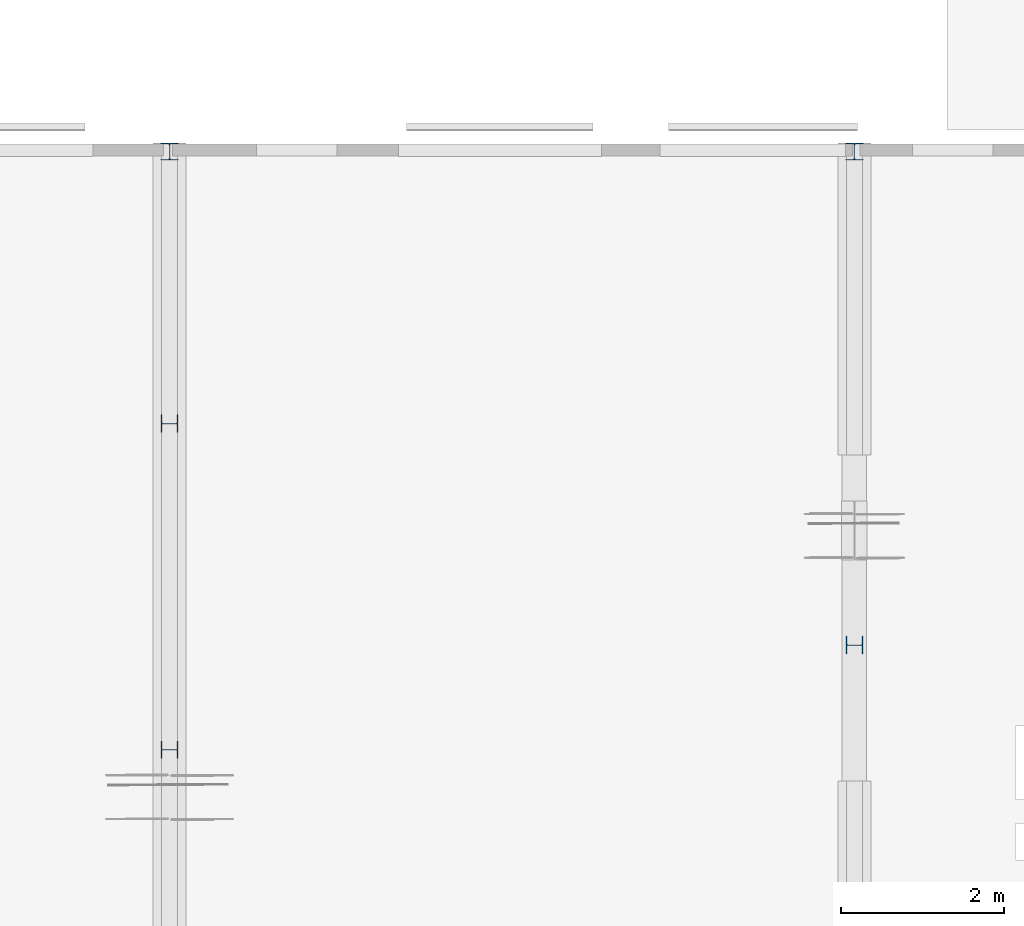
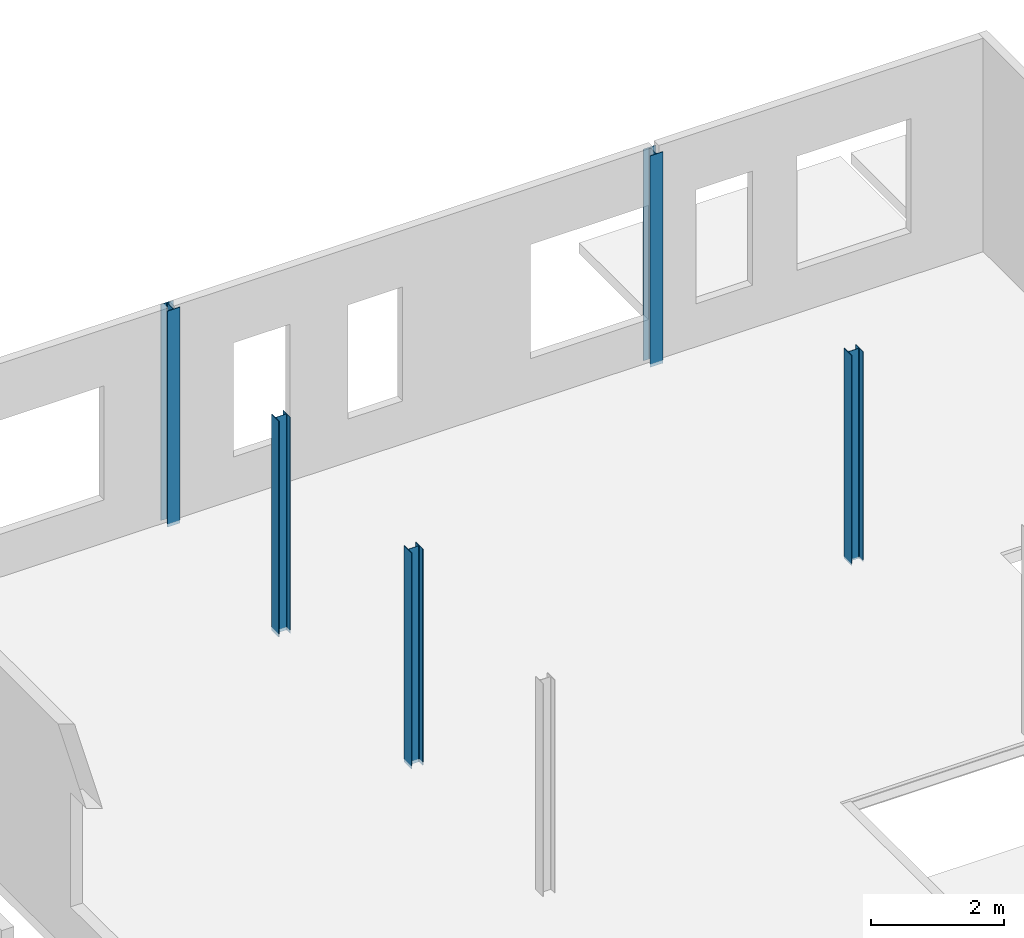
# One storey, part 3 of 16: 5 columns.
"""IFC2X3 building model written with IfcOpenShell, lengths in millimetres."""

from ifc_helpers import new_model, entity, si_unit, converted_unit, derived_unit, direction, frame, frame_2d, origin, place, context, subcontext, project, spatial, polyline, circle_curve, parameter, trimmed, segment, composite_curve, outline, extrude, source, transform, mapped, material, material_list, type_object, type_shapes, element, save


model = new_model("IFC2X3")

# Units and contexts
model_context = context("Model", 3, precision=0.01, world=origin(), true_north=direction((6.12303176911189e-17, 1.0)))
body_context = subcontext(model_context, "Body", "Model", "MODEL_VIEW")
ifc_project = project(units=[si_unit("LENGTHUNIT", "METRE", prefix="MILLI"), si_unit("AREAUNIT", "SQUARE_METRE"), si_unit("VOLUMEUNIT", "CUBIC_METRE"), converted_unit("PLANEANGLEUNIT", "DEGREE", entity("IfcRatioMeasure", 0.0174532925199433), si_unit("PLANEANGLEUNIT", "RADIAN"), dimensions=[0, 0, 0, 0, 0, 0, 0]), si_unit("MASSUNIT", "GRAM", prefix="KILO"), derived_unit("MASSDENSITYUNIT", [(si_unit("MASSUNIT", "GRAM", prefix="KILO"), 1), (si_unit("LENGTHUNIT", "METRE"), -3)]), derived_unit("MOMENTOFINERTIAUNIT", [(si_unit("LENGTHUNIT", "METRE"), 4)]), si_unit("TIMEUNIT", "SECOND"), si_unit("FREQUENCYUNIT", "HERTZ"), si_unit("THERMODYNAMICTEMPERATUREUNIT", "DEGREE_CELSIUS"), derived_unit("THERMALTRANSMITTANCEUNIT", [(si_unit("MASSUNIT", "GRAM", prefix="KILO"), 1), (si_unit("THERMODYNAMICTEMPERATUREUNIT", "KELVIN"), -1), (si_unit("TIMEUNIT", "SECOND"), -3)]), derived_unit("VOLUMETRICFLOWRATEUNIT", [(si_unit("LENGTHUNIT", "METRE"), 3), (si_unit("TIMEUNIT", "SECOND"), -1)]), si_unit("ELECTRICCURRENTUNIT", "AMPERE"), si_unit("ELECTRICVOLTAGEUNIT", "VOLT"), si_unit("POWERUNIT", "WATT"), si_unit("FORCEUNIT", "NEWTON", prefix="KILO"), si_unit("ILLUMINANCEUNIT", "LUX"), si_unit("LUMINOUSFLUXUNIT", "LUMEN"), si_unit("LUMINOUSINTENSITYUNIT", "CANDELA"), derived_unit("USERDEFINED", [(si_unit("MASSUNIT", "GRAM", prefix="KILO"), -1), (si_unit("LENGTHUNIT", "METRE"), -2), (si_unit("TIMEUNIT", "SECOND"), 3), (si_unit("LUMINOUSFLUXUNIT", "LUMEN"), 1)]), derived_unit("LINEARVELOCITYUNIT", [(si_unit("LENGTHUNIT", "METRE"), 1), (si_unit("TIMEUNIT", "SECOND"), -1)]), si_unit("PRESSUREUNIT", "PASCAL"), derived_unit("USERDEFINED", [(si_unit("LENGTHUNIT", "METRE"), -2), (si_unit("MASSUNIT", "GRAM", prefix="KILO"), 1), (si_unit("TIMEUNIT", "SECOND"), -2)]), derived_unit("LINEARFORCEUNIT", [(si_unit("MASSUNIT", "GRAM", prefix="KILO"), 1), (si_unit("LENGTHUNIT", "METRE"), 1), (si_unit("TIMEUNIT", "SECOND"), -2), (si_unit("LENGTHUNIT", "METRE"), -1)]), derived_unit("PLANARFORCEUNIT", [(si_unit("MASSUNIT", "GRAM", prefix="KILO"), 1), (si_unit("LENGTHUNIT", "METRE"), 1), (si_unit("TIMEUNIT", "SECOND"), -2), (si_unit("LENGTHUNIT", "METRE"), -2)])], contexts=[model_context])

# Site, building, storey
site_placement = place(None, origin())
site = spatial("IfcSite", under=ifc_project, at=site_placement, Name="Default", CompositionType="ELEMENT")
building_placement = place(site_placement, origin())
building = spatial("IfcBuilding", under=site, at=building_placement, CompositionType="ELEMENT")
storey_placement = place(building_placement, frame((0.0, 0.0, 3500.0)))
storey = spatial("IfcBuildingStorey", under=building, at=storey_placement, Name="01 eerste verdieping", CompositionType="ELEMENT", Elevation=3500.00000000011)

# Columns
ifc_material_1 = material(Name="h2_staal")
column_type_1 = type_object("IfcColumnType", Name="BERSnl_28_SCO_TLB_kolom hea_gen_ISR:kolom gen hea220", PredefinedType="COLUMN", material=ifc_material_1)
shared_shape_1 = source(origin(), body_context, "Body", "SweptSolid", [
    extrude(outline(composite_curve([segment(polyline([(94.0, -110.0), (105.0, -110.0)]), True, "CONTINUOUS"), segment(polyline([(105.0, -110.0), (105.0, 110.0)]), True, "CONTINUOUS"), segment(polyline([(105.0, 110.0), (94.0, 110.0)]), True, "CONTINUOUS"), segment(polyline([(94.0, 110.0), (94.0, 21.5000000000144)]), True, "CONTINUOUS"), segment(trimmed(circle_curve(frame_2d((76.0, 21.5000000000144), x_axis=(1.0, 0.0)), 18.0), [parameter(270.0)], [parameter(0.0)], True, "PARAMETER"), False, "CONTINUOUS"), segment(polyline([(76.0, 3.50000000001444), (-76.0, 3.50000000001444)]), True, "CONTINUOUS"), segment(trimmed(circle_curve(frame_2d((-76.0, 21.5000000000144), x_axis=(0.0, -1.0)), 18.0), [parameter(270.0)], [parameter(0.0)], True, "PARAMETER"), False, "CONTINUOUS"), segment(polyline([(-94.0, 21.5000000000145), (-94.0, 110.0)]), True, "CONTINUOUS"), segment(polyline([(-94.0, 110.0), (-105.0, 110.0)]), True, "CONTINUOUS"), segment(polyline([(-105.0, 110.0), (-105.0, -110.0)]), True, "CONTINUOUS"), segment(polyline([(-105.0, -110.0), (-94.0, -110.0)]), True, "CONTINUOUS"), segment(polyline([(-94.0, -110.0), (-94.0, -21.5000000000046)]), True, "CONTINUOUS"), segment(trimmed(circle_curve(frame_2d((-76.0, -21.5000000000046), x_axis=(-1.0, 0.0)), 18.0), [parameter(269.999999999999)], [parameter(0.0)], True, "PARAMETER"), False, "CONTINUOUS"), segment(polyline([(-76.0, -3.50000000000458), (76.0, -3.50000000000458)]), True, "CONTINUOUS"), segment(trimmed(circle_curve(frame_2d((76.0, -21.5000000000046), x_axis=(0.0, 1.0)), 18.0), [parameter(270.0)], [parameter(0.0)], True, "PARAMETER"), False, "CONTINUOUS"), segment(polyline([(94.0, -21.5000000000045), (94.0, -110.0)]), True, "CONTINUOUS")], self_intersect=False)), frame((0.0, 0.0, 3850.0), z_axis=(0.0, 0.0, 1.0), x_axis=(0.0, -1.0, 0.0)), (0.0, 0.0, 1.0), 3975.0),
])
type_shapes(column_type_1, [shared_shape_1])
for number, where, z_axis, x_axis, name in (
    (1, (20569.4349765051, 35402.2966282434, -3500.0), (0.0, 0.0, 1.0), (-1.0, 0.0, 0.0), "BERSnl_28_SCO_TLB_kolom hea_gen_ISR:kolom gen hea220"),
    (2, (20569.4349765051, 32067.2966282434, -3500.0), (0.0, 0.0, 1.0), (0.0, 1.0, 0.0), "BERSnl_28_SCO_TLB_kolom hea_gen_ISR:kolom gen hea220"),
    (3, (20569.4349765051, 28067.2966282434, -3500.0), (0.0, 0.0, 1.0), (0.0, 1.0, 0.0), "BERSnl_28_SCO_TLB_kolom hea_gen_ISR:kolom gen hea220"),
):
    element("IfcColumn", number, at=place(storey_placement, frame(where, z_axis=z_axis, x_axis=x_axis)), inside=storey, type_object=column_type_1, Name=name, ObjectType="BERSnl_28_SCO_TLB_kolom hea_gen_ISR:kolom gen hea220", context=body_context, shape_type="MappedRepresentation", body=[
        mapped(shared_shape_1, transform((0.0, 0.0, 0.0), scale=1.0)),
    ])
column_type_2 = type_object("IfcColumnType", Name="BERSnl_28_SCO_TLB_kolom hea_gen_ISR:kolom gen hea220", PredefinedType="COLUMN", material=ifc_material_1)
shared_shape_2 = source(origin(), body_context, "Body", "SweptSolid", [
    extrude(outline(composite_curve([segment(polyline([(94.0, -110.0), (105.0, -110.0)]), True, "CONTINUOUS"), segment(polyline([(105.0, -110.0), (105.0, 110.0)]), True, "CONTINUOUS"), segment(polyline([(105.0, 110.0), (94.0, 110.0)]), True, "CONTINUOUS"), segment(polyline([(94.0, 110.0), (94.0, 21.5000000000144)]), True, "CONTINUOUS"), segment(trimmed(circle_curve(frame_2d((76.0, 21.5000000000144), x_axis=(1.0, 0.0)), 18.0), [parameter(270.0)], [parameter(0.0)], True, "PARAMETER"), False, "CONTINUOUS"), segment(polyline([(76.0, 3.50000000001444), (-76.0, 3.50000000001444)]), True, "CONTINUOUS"), segment(trimmed(circle_curve(frame_2d((-76.0, 21.5000000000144), x_axis=(0.0, -1.0)), 18.0), [parameter(270.0)], [parameter(0.0)], True, "PARAMETER"), False, "CONTINUOUS"), segment(polyline([(-94.0, 21.5000000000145), (-94.0, 110.0)]), True, "CONTINUOUS"), segment(polyline([(-94.0, 110.0), (-105.0, 110.0)]), True, "CONTINUOUS"), segment(polyline([(-105.0, 110.0), (-105.0, -110.0)]), True, "CONTINUOUS"), segment(polyline([(-105.0, -110.0), (-94.0, -110.0)]), True, "CONTINUOUS"), segment(polyline([(-94.0, -110.0), (-94.0, -21.5000000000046)]), True, "CONTINUOUS"), segment(trimmed(circle_curve(frame_2d((-76.0, -21.5000000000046), x_axis=(-1.0, 0.0)), 18.0), [parameter(269.999999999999)], [parameter(0.0)], True, "PARAMETER"), False, "CONTINUOUS"), segment(polyline([(-76.0, -3.50000000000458), (76.0, -3.50000000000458)]), True, "CONTINUOUS"), segment(trimmed(circle_curve(frame_2d((76.0, -21.5000000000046), x_axis=(0.0, 1.0)), 18.0), [parameter(270.0)], [parameter(0.0)], True, "PARAMETER"), False, "CONTINUOUS"), segment(polyline([(94.0, -21.5000000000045), (94.0, -110.0)]), True, "CONTINUOUS")], self_intersect=False)), frame((0.0, 0.0, 3850.0), z_axis=(0.0, 0.0, 1.0), x_axis=(0.0, -1.0, 0.0)), (0.0, 0.0, 1.0), 3891.0),
])
type_shapes(column_type_2, [shared_shape_2])
column_1_placement = place(storey_placement, frame((28969.4349765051, 35402.2966282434, -3500.0), z_axis=(0.0, 0.0, 1.0), x_axis=(-1.0, 0.0, 0.0)))
element("IfcColumn", 4, at=column_1_placement, inside=storey, type_object=column_type_2, Name="BERSnl_28_SCO_TLB_kolom hea_gen_ISR:kolom gen hea220", ObjectType="BERSnl_28_SCO_TLB_kolom hea_gen_ISR:kolom gen hea220", context=body_context, shape_type="MappedRepresentation", body=[
    mapped(shared_shape_2, transform((0.0, 0.0, 0.0), scale=1.0)),
])
ifc_material_2 = material(Name="<Unnamed>")
ifc_material_3 = material(Name="00_Staal_generiek")
ifc_material_list = material_list([ifc_material_2, ifc_material_3])
column_type_3 = type_object("IfcColumnType", Name="BERSnl_28_SCO_TLB_kolom hea_gen_ISR:kolom gen hea220", PredefinedType="COLUMN", material=ifc_material_list)
shared_shape_3 = source(origin(), body_context, "Body", "SweptSolid", [
    extrude(outline(composite_curve([segment(polyline([(94.0, -110.0), (105.0, -110.0)]), True, "CONTINUOUS"), segment(polyline([(105.0, -110.0), (105.0, 110.0)]), True, "CONTINUOUS"), segment(polyline([(105.0, 110.0), (94.0, 110.0)]), True, "CONTINUOUS"), segment(polyline([(94.0, 110.0), (94.0, 21.5000000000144)]), True, "CONTINUOUS"), segment(trimmed(circle_curve(frame_2d((76.0, 21.5000000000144), x_axis=(1.0, 0.0)), 18.0), [parameter(270.0)], [parameter(0.0)], True, "PARAMETER"), False, "CONTINUOUS"), segment(polyline([(76.0, 3.50000000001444), (-76.0, 3.50000000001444)]), True, "CONTINUOUS"), segment(trimmed(circle_curve(frame_2d((-76.0, 21.5000000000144), x_axis=(0.0, -1.0)), 18.0), [parameter(270.0)], [parameter(0.0)], True, "PARAMETER"), False, "CONTINUOUS"), segment(polyline([(-94.0, 21.5000000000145), (-94.0, 110.0)]), True, "CONTINUOUS"), segment(polyline([(-94.0, 110.0), (-105.0, 110.0)]), True, "CONTINUOUS"), segment(polyline([(-105.0, 110.0), (-105.0, -110.0)]), True, "CONTINUOUS"), segment(polyline([(-105.0, -110.0), (-94.0, -110.0)]), True, "CONTINUOUS"), segment(polyline([(-94.0, -110.0), (-94.0, -21.5000000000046)]), True, "CONTINUOUS"), segment(trimmed(circle_curve(frame_2d((-76.0, -21.5000000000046), x_axis=(-1.0, 0.0)), 18.0), [parameter(269.999999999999)], [parameter(0.0)], True, "PARAMETER"), False, "CONTINUOUS"), segment(polyline([(-76.0, -3.50000000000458), (76.0, -3.50000000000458)]), True, "CONTINUOUS"), segment(trimmed(circle_curve(frame_2d((76.0, -21.5000000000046), x_axis=(0.0, 1.0)), 18.0), [parameter(270.0)], [parameter(0.0)], True, "PARAMETER"), False, "CONTINUOUS"), segment(polyline([(94.0, -21.5000000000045), (94.0, -110.0)]), True, "CONTINUOUS")], self_intersect=False)), frame((0.0, 0.0, 3875.0), z_axis=(0.0, 0.0, 1.0), x_axis=(0.0, -1.0, 0.0)), (0.0, 0.0, 1.0), 3866.0),
])
type_shapes(column_type_3, [shared_shape_3])
column_2_placement = place(storey_placement, frame((28969.4349765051, 29351.2966282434, -3500.0), z_axis=(0.0, 0.0, 1.0), x_axis=(0.0, -1.0, 0.0)))
element("IfcColumn", 5, at=column_2_placement, inside=storey, type_object=column_type_3, Name="BERSnl_28_SCO_TLB_kolom hea_gen_ISR:kolom gen hea220", ObjectType="BERSnl_28_SCO_TLB_kolom hea_gen_ISR:kolom gen hea220", context=body_context, shape_type="MappedRepresentation", body=[
    mapped(shared_shape_3, transform((0.0, 0.0, 0.0), scale=1.0)),
])

save(model, "model.ifc")
